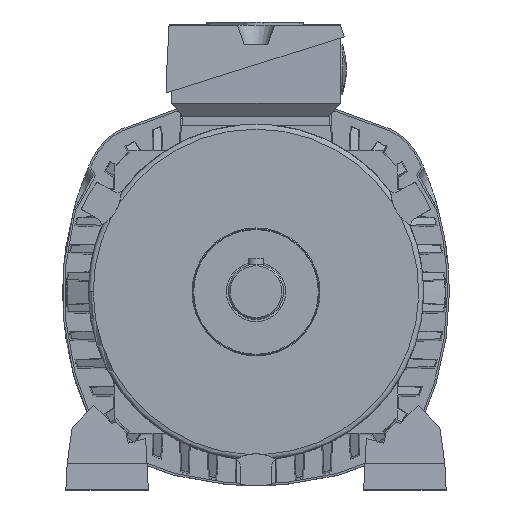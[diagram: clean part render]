
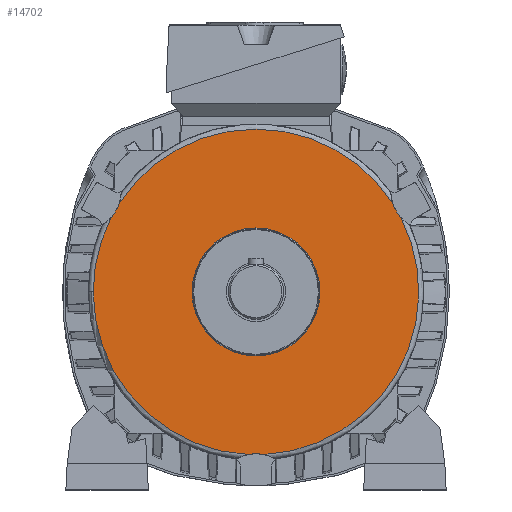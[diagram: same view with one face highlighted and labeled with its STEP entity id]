
A CAD part, top view. The second image highlights one B-rep face of the part: STEP entity #14702.
In plain terms, the highlighted planar face has unit normal (0, 0, 1).
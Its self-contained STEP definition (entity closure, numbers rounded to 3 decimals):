
#257 = EDGE_CURVE ( 'NONE', #14606, #8543, #16440, .T. ) ;
#458 = CARTESIAN_POINT ( 'NONE',  ( 73.361, 37.741, 30. ) ) ;
#762 = ORIENTED_EDGE ( 'NONE', *, *, #21520, .F. ) ;
#1175 = CARTESIAN_POINT ( 'NONE',  ( 0., 82.5, 30. ) ) ;
#1300 = FACE_BOUND ( 'NONE', #2242, .T. ) ;
#1357 = AXIS2_PLACEMENT_3D ( 'NONE', #18906, #7858, #20765 ) ;
#1749 = AXIS2_PLACEMENT_3D ( 'NONE', #6359, #6429, #6517 ) ;
#1829 = EDGE_CURVE ( 'NONE', #8172, #12241, #11362, .T. ) ;
#2242 = EDGE_LOOP ( 'NONE', ( #2561, #23530 ) ) ;
#2561 = ORIENTED_EDGE ( 'NONE', *, *, #10756, .T. ) ;
#2754 = AXIS2_PLACEMENT_3D ( 'NONE', #1175, #14058, #3024 ) ;
#2863 = DIRECTION ( 'NONE',  ( 0., 0., -1. ) ) ;
#3024 = DIRECTION ( 'NONE',  ( 1., 0., 0. ) ) ;
#3262 = AXIS2_PLACEMENT_3D ( 'NONE', #18984, #7937, #20841 ) ;
#4749 = DIRECTION ( 'NONE',  ( 0., 0., -1. ) ) ;
#4898 = ORIENTED_EDGE ( 'NONE', *, *, #22167, .F. ) ;
#5156 = AXIS2_PLACEMENT_3D ( 'NONE', #19873, #8818, #21705 ) ;
#5221 = ORIENTED_EDGE ( 'NONE', *, *, #257, .T. ) ;
#5408 = EDGE_LOOP ( 'NONE', ( #14029, #5221, #8881, #4898, #15117, #762, #7799 ) ) ;
#5908 = CARTESIAN_POINT ( 'NONE',  ( 32.4, 0., 30. ) ) ;
#6359 = CARTESIAN_POINT ( 'NONE',  ( -88.335, 51., 30. ) ) ;
#6429 = DIRECTION ( 'NONE',  ( 0., 0., -1. ) ) ;
#6517 = DIRECTION ( 'NONE',  ( 1., 0., 0. ) ) ;
#6852 = AXIS2_PLACEMENT_3D ( 'NONE', #10295, #23209, #12144 ) ;
#7120 = CIRCLE ( 'NONE', #21154, 82.5 ) ;
#7799 = ORIENTED_EDGE ( 'NONE', *, *, #16018, .T. ) ;
#7858 = DIRECTION ( 'NONE',  ( 0., 0., -1. ) ) ;
#7937 = DIRECTION ( 'NONE',  ( 0., 0., -1. ) ) ;
#8172 = VERTEX_POINT ( 'NONE', #5908 ) ;
#8543 = VERTEX_POINT ( 'NONE', #18053 ) ;
#8771 = CIRCLE ( 'NONE', #6852, 82.5 ) ;
#8818 = DIRECTION ( 'NONE',  ( 0., 0., -1. ) ) ;
#8881 = ORIENTED_EDGE ( 'NONE', *, *, #23454, .F. ) ;
#9156 = CARTESIAN_POINT ( 'NONE',  ( 88.335, 51., 30. ) ) ;
#9215 = CARTESIAN_POINT ( 'NONE',  ( -3.996, -82.403, 30. ) ) ;
#9389 = CIRCLE ( 'NONE', #1357, 82.5 ) ;
#9550 = CARTESIAN_POINT ( 'NONE',  ( -82.5, 0., 30. ) ) ;
#9704 = AXIS2_PLACEMENT_3D ( 'NONE', #12946, #11187, #11100 ) ;
#10295 = CARTESIAN_POINT ( 'NONE',  ( 0., 0., 30. ) ) ;
#10500 = FACE_OUTER_BOUND ( 'NONE', #5408, .T. ) ;
#10756 = EDGE_CURVE ( 'NONE', #12241, #8172, #18802, .T. ) ;
#11041 = DIRECTION ( 'NONE',  ( 1., 0., 0. ) ) ;
#11100 = DIRECTION ( 'NONE',  ( -1., 0., 0. ) ) ;
#11187 = DIRECTION ( 'NONE',  ( 0., 0., -1. ) ) ;
#11362 = CIRCLE ( 'NONE', #9704, 32.4 ) ;
#11468 = CARTESIAN_POINT ( 'NONE',  ( -32.4, 0., 30. ) ) ;
#12144 = DIRECTION ( 'NONE',  ( -1., 0., 0. ) ) ;
#12241 = VERTEX_POINT ( 'NONE', #11468 ) ;
#12822 = VERTEX_POINT ( 'NONE', #9215 ) ;
#12869 = VERTEX_POINT ( 'NONE', #458 ) ;
#12946 = CARTESIAN_POINT ( 'NONE',  ( 0., 0., 30. ) ) ;
#13899 = CARTESIAN_POINT ( 'NONE',  ( 0., 0., 30. ) ) ;
#13994 = VERTEX_POINT ( 'NONE', #9550 ) ;
#13995 = EDGE_CURVE ( 'NONE', #14606, #20079, #9389, .T. ) ;
#14029 = ORIENTED_EDGE ( 'NONE', *, *, #13995, .F. ) ;
#14058 = DIRECTION ( 'NONE',  ( 0., 0., 1. ) ) ;
#14407 = CIRCLE ( 'NONE', #3262, 82.5 ) ;
#14606 = VERTEX_POINT ( 'NONE', #19196 ) ;
#14702 = ADVANCED_FACE ( 'NONE', ( #1300, #10500 ), #21288, .T. ) ;
#15117 = ORIENTED_EDGE ( 'NONE', *, *, #18641, .T. ) ;
#15754 = DIRECTION ( 'NONE',  ( -1., 0., 0. ) ) ;
#15809 = CARTESIAN_POINT ( 'NONE',  ( 0., -102., 30. ) ) ;
#15902 = AXIS2_PLACEMENT_3D ( 'NONE', #9156, #22042, #11041 ) ;
#16018 = EDGE_CURVE ( 'NONE', #12869, #20079, #18178, .T. ) ;
#16440 = CIRCLE ( 'NONE', #1749, 20. ) ;
#16728 = AXIS2_PLACEMENT_3D ( 'NONE', #15809, #4749, #17641 ) ;
#17641 = DIRECTION ( 'NONE',  ( 1., 0., 0. ) ) ;
#18053 = CARTESIAN_POINT ( 'NONE',  ( -73.361, 37.741, 30. ) ) ;
#18178 = CIRCLE ( 'NONE', #15902, 20. ) ;
#18641 = EDGE_CURVE ( 'NONE', #12822, #20660, #19974, .T. ) ;
#18802 = CIRCLE ( 'NONE', #5156, 32.4 ) ;
#18906 = CARTESIAN_POINT ( 'NONE',  ( 0., 0., 30. ) ) ;
#18984 = CARTESIAN_POINT ( 'NONE',  ( 0., 0., 30. ) ) ;
#19196 = CARTESIAN_POINT ( 'NONE',  ( -69.365, 44.662, 30. ) ) ;
#19873 = CARTESIAN_POINT ( 'NONE',  ( 0., 0., 30. ) ) ;
#19974 = CIRCLE ( 'NONE', #16728, 20. ) ;
#20079 = VERTEX_POINT ( 'NONE', #20520 ) ;
#20520 = CARTESIAN_POINT ( 'NONE',  ( 69.365, 44.662, 30. ) ) ;
#20660 = VERTEX_POINT ( 'NONE', #21367 ) ;
#20765 = DIRECTION ( 'NONE',  ( -1., 0., 0. ) ) ;
#20841 = DIRECTION ( 'NONE',  ( -1., 0., 0. ) ) ;
#21154 = AXIS2_PLACEMENT_3D ( 'NONE', #13899, #2863, #15754 ) ;
#21288 = PLANE ( 'NONE',  #2754 ) ;
#21367 = CARTESIAN_POINT ( 'NONE',  ( 3.996, -82.403, 30. ) ) ;
#21520 = EDGE_CURVE ( 'NONE', #12869, #20660, #14407, .T. ) ;
#21705 = DIRECTION ( 'NONE',  ( -1., 0., 0. ) ) ;
#22042 = DIRECTION ( 'NONE',  ( 0., 0., -1. ) ) ;
#22167 = EDGE_CURVE ( 'NONE', #12822, #13994, #7120, .T. ) ;
#23209 = DIRECTION ( 'NONE',  ( 0., 0., -1. ) ) ;
#23454 = EDGE_CURVE ( 'NONE', #13994, #8543, #8771, .T. ) ;
#23530 = ORIENTED_EDGE ( 'NONE', *, *, #1829, .T. ) ;
